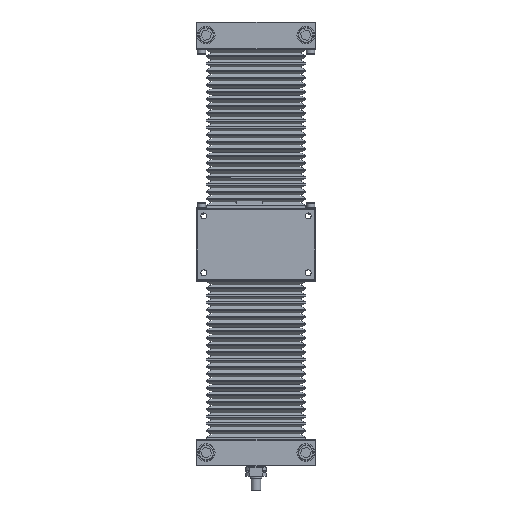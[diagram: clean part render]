
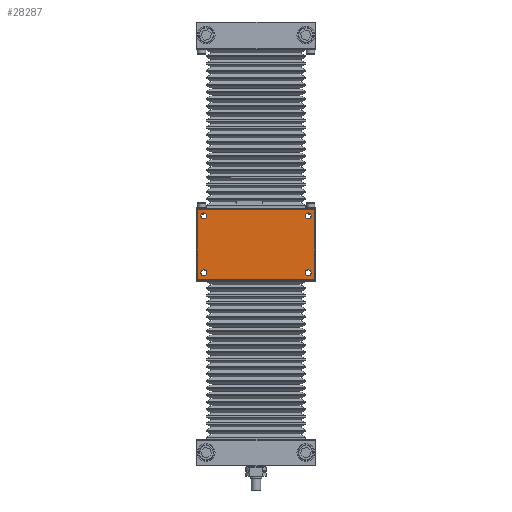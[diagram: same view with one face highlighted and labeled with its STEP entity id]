
A CAD part, front view. The second image highlights one B-rep face of the part: STEP entity #28287.
In plain terms, the highlighted planar face has unit normal (0, -1, 0).
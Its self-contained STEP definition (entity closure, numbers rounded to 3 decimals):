
#769 = LINE ( 'NONE', #37079, #24841 ) ;
#815 = EDGE_CURVE ( 'NONE', #4309, #38383, #2551, .T. ) ;
#1005 = EDGE_LOOP ( 'NONE', ( #36940, #34237, #6687, #19110 ) ) ;
#1038 = ORIENTED_EDGE ( 'NONE', *, *, #6868, .T. ) ;
#1223 = CARTESIAN_POINT ( 'NONE',  ( 44., -18., 56.5 ) ) ;
#2405 = DIRECTION ( 'NONE',  ( 0., 0., -1. ) ) ;
#2551 = LINE ( 'NONE', #33810, #30716 ) ;
#2582 = CIRCLE ( 'NONE', #3234, 2.5 ) ;
#2640 = ORIENTED_EDGE ( 'NONE', *, *, #36796, .T. ) ;
#2814 = LINE ( 'NONE', #5818, #36267 ) ;
#2832 = CARTESIAN_POINT ( 'NONE',  ( -44., -18., 6. ) ) ;
#3234 = AXIS2_PLACEMENT_3D ( 'NONE', #37768, #35164, #7846 ) ;
#3926 = EDGE_LOOP ( 'NONE', ( #1038, #6635 ) ) ;
#4309 = VERTEX_POINT ( 'NONE', #25468 ) ;
#4337 = CIRCLE ( 'NONE', #38086, 2.5 ) ;
#4507 = AXIS2_PLACEMENT_3D ( 'NONE', #7684, #16877, #15252 ) ;
#5034 = EDGE_CURVE ( 'NONE', #30690, #17716, #769, .T. ) ;
#5164 = AXIS2_PLACEMENT_3D ( 'NONE', #16723, #32248, #26490 ) ;
#5634 = DIRECTION ( 'NONE',  ( 0., 0., 1. ) ) ;
#5818 = CARTESIAN_POINT ( 'NONE',  ( -49.5, -18., 60. ) ) ;
#5900 = CIRCLE ( 'NONE', #10342, 2.5 ) ;
#6092 = ORIENTED_EDGE ( 'NONE', *, *, #31513, .T. ) ;
#6419 = DIRECTION ( 'NONE',  ( 0., 0., 1. ) ) ;
#6635 = ORIENTED_EDGE ( 'NONE', *, *, #32814, .T. ) ;
#6687 = ORIENTED_EDGE ( 'NONE', *, *, #5034, .T. ) ;
#6868 = EDGE_CURVE ( 'NONE', #28071, #18329, #35761, .T. ) ;
#6924 = EDGE_LOOP ( 'NONE', ( #13937, #2640 ) ) ;
#7224 = DIRECTION ( 'NONE',  ( 0., 0., 1. ) ) ;
#7406 = DIRECTION ( 'NONE',  ( 0., 1., 0. ) ) ;
#7602 = FACE_BOUND ( 'NONE', #3926, .T. ) ;
#7684 = CARTESIAN_POINT ( 'NONE',  ( 44., -18., 54. ) ) ;
#7803 = CARTESIAN_POINT ( 'NONE',  ( -44., -18., 54. ) ) ;
#7846 = DIRECTION ( 'NONE',  ( 0., 0., 1. ) ) ;
#8764 = EDGE_CURVE ( 'NONE', #31051, #35885, #21723, .T. ) ;
#9893 = DIRECTION ( 'NONE',  ( -1., 0., 0. ) ) ;
#10266 = VERTEX_POINT ( 'NONE', #29632 ) ;
#10342 = AXIS2_PLACEMENT_3D ( 'NONE', #16015, #12819, #27605 ) ;
#10616 = EDGE_CURVE ( 'NONE', #25241, #32681, #2582, .T. ) ;
#11106 = EDGE_CURVE ( 'NONE', #33464, #10266, #17308, .T. ) ;
#11238 = LINE ( 'NONE', #20410, #21747 ) ;
#11428 = CARTESIAN_POINT ( 'NONE',  ( 44., -18., 3.5 ) ) ;
#12232 = DIRECTION ( 'NONE',  ( 0., 1., 0. ) ) ;
#12819 = DIRECTION ( 'NONE',  ( 0., 1., 0. ) ) ;
#13430 = CARTESIAN_POINT ( 'NONE',  ( 49.5, -18., 0.5 ) ) ;
#13937 = ORIENTED_EDGE ( 'NONE', *, *, #11106, .T. ) ;
#14307 = EDGE_LOOP ( 'NONE', ( #28013, #23723 ) ) ;
#14475 = CARTESIAN_POINT ( 'NONE',  ( -49.5, -18., 0.5 ) ) ;
#14617 = AXIS2_PLACEMENT_3D ( 'NONE', #2832, #12232, #33538 ) ;
#15252 = DIRECTION ( 'NONE',  ( 0., 0., 1. ) ) ;
#16015 = CARTESIAN_POINT ( 'NONE',  ( -44., -18., 54. ) ) ;
#16705 = AXIS2_PLACEMENT_3D ( 'NONE', #24006, #23420, #5634 ) ;
#16723 = CARTESIAN_POINT ( 'NONE',  ( -44., -18., 6. ) ) ;
#16877 = DIRECTION ( 'NONE',  ( 0., 1., 0. ) ) ;
#17179 = PLANE ( 'NONE',  #38036 ) ;
#17308 = CIRCLE ( 'NONE', #35110, 2.5 ) ;
#17332 = CIRCLE ( 'NONE', #16705, 2.5 ) ;
#17716 = VERTEX_POINT ( 'NONE', #13430 ) ;
#18329 = VERTEX_POINT ( 'NONE', #20750 ) ;
#18525 = ORIENTED_EDGE ( 'NONE', *, *, #10616, .T. ) ;
#19110 = ORIENTED_EDGE ( 'NONE', *, *, #20707, .T. ) ;
#19205 = CARTESIAN_POINT ( 'NONE',  ( 44., -18., 6. ) ) ;
#19780 = FACE_BOUND ( 'NONE', #14307, .T. ) ;
#20410 = CARTESIAN_POINT ( 'NONE',  ( 49.5, -18., 60. ) ) ;
#20707 = EDGE_CURVE ( 'NONE', #17716, #4309, #11238, .T. ) ;
#20750 = CARTESIAN_POINT ( 'NONE',  ( -44., -18., 3.5 ) ) ;
#21045 = CARTESIAN_POINT ( 'NONE',  ( -44., -18., 8.5 ) ) ;
#21723 = CIRCLE ( 'NONE', #4507, 2.5 ) ;
#21747 = VECTOR ( 'NONE', #26425, 1000. ) ;
#21824 = CARTESIAN_POINT ( 'NONE',  ( -49.5, -18., 59.5 ) ) ;
#22914 = EDGE_LOOP ( 'NONE', ( #18525, #6092 ) ) ;
#23420 = DIRECTION ( 'NONE',  ( 0., 1., 0. ) ) ;
#23534 = EDGE_CURVE ( 'NONE', #38383, #30690, #2814, .T. ) ;
#23723 = ORIENTED_EDGE ( 'NONE', *, *, #36622, .T. ) ;
#24006 = CARTESIAN_POINT ( 'NONE',  ( 44., -18., 54. ) ) ;
#24841 = VECTOR ( 'NONE', #31100, 1000. ) ;
#25241 = VERTEX_POINT ( 'NONE', #32755 ) ;
#25468 = CARTESIAN_POINT ( 'NONE',  ( 49.5, -18., 59.5 ) ) ;
#25780 = DIRECTION ( 'NONE',  ( 0., 1., 0. ) ) ;
#26381 = FACE_BOUND ( 'NONE', #22914, .T. ) ;
#26425 = DIRECTION ( 'NONE',  ( 0., 0., 1. ) ) ;
#26490 = DIRECTION ( 'NONE',  ( 0., 0., 1. ) ) ;
#26726 = CIRCLE ( 'NONE', #14617, 2.5 ) ;
#27605 = DIRECTION ( 'NONE',  ( 0., 0., 1. ) ) ;
#28013 = ORIENTED_EDGE ( 'NONE', *, *, #8764, .T. ) ;
#28071 = VERTEX_POINT ( 'NONE', #21045 ) ;
#28287 = ADVANCED_FACE ( 'NONE', ( #35327, #7602, #29149, #26381, #19780 ), #17179, .F. ) ;
#29149 = FACE_BOUND ( 'NONE', #6924, .T. ) ;
#29632 = CARTESIAN_POINT ( 'NONE',  ( -44., -18., 51.5 ) ) ;
#30690 = VERTEX_POINT ( 'NONE', #14475 ) ;
#30716 = VECTOR ( 'NONE', #9893, 1000. ) ;
#31051 = VERTEX_POINT ( 'NONE', #1223 ) ;
#31100 = DIRECTION ( 'NONE',  ( 1., 0., 0. ) ) ;
#31261 = CARTESIAN_POINT ( 'NONE',  ( 44., -18., 51.5 ) ) ;
#31513 = EDGE_CURVE ( 'NONE', #32681, #25241, #4337, .T. ) ;
#32248 = DIRECTION ( 'NONE',  ( 0., 1., 0. ) ) ;
#32681 = VERTEX_POINT ( 'NONE', #11428 ) ;
#32755 = CARTESIAN_POINT ( 'NONE',  ( 44., -18., 8.5 ) ) ;
#32814 = EDGE_CURVE ( 'NONE', #18329, #28071, #26726, .T. ) ;
#33464 = VERTEX_POINT ( 'NONE', #38747 ) ;
#33538 = DIRECTION ( 'NONE',  ( 0., 0., 1. ) ) ;
#33810 = CARTESIAN_POINT ( 'NONE',  ( -50., -18., 59.5 ) ) ;
#34237 = ORIENTED_EDGE ( 'NONE', *, *, #23534, .T. ) ;
#35110 = AXIS2_PLACEMENT_3D ( 'NONE', #7803, #25780, #37047 ) ;
#35164 = DIRECTION ( 'NONE',  ( 0., 1., 0. ) ) ;
#35327 = FACE_OUTER_BOUND ( 'NONE', #1005, .T. ) ;
#35761 = CIRCLE ( 'NONE', #5164, 2.5 ) ;
#35885 = VERTEX_POINT ( 'NONE', #31261 ) ;
#36267 = VECTOR ( 'NONE', #2405, 1000. ) ;
#36622 = EDGE_CURVE ( 'NONE', #35885, #31051, #17332, .T. ) ;
#36796 = EDGE_CURVE ( 'NONE', #10266, #33464, #5900, .T. ) ;
#36940 = ORIENTED_EDGE ( 'NONE', *, *, #815, .T. ) ;
#37047 = DIRECTION ( 'NONE',  ( 0., 0., 1. ) ) ;
#37079 = CARTESIAN_POINT ( 'NONE',  ( -50., -18., 0.5 ) ) ;
#37317 = DIRECTION ( 'NONE',  ( 0., 1., 0. ) ) ;
#37768 = CARTESIAN_POINT ( 'NONE',  ( 44., -18., 6. ) ) ;
#38036 = AXIS2_PLACEMENT_3D ( 'NONE', #38112, #7406, #7224 ) ;
#38086 = AXIS2_PLACEMENT_3D ( 'NONE', #19205, #37317, #6419 ) ;
#38112 = CARTESIAN_POINT ( 'NONE',  ( -50., -18., 60. ) ) ;
#38383 = VERTEX_POINT ( 'NONE', #21824 ) ;
#38747 = CARTESIAN_POINT ( 'NONE',  ( -44., -18., 56.5 ) ) ;
